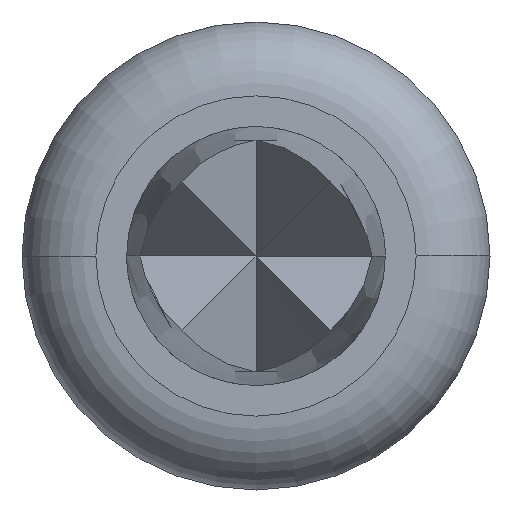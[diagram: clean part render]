
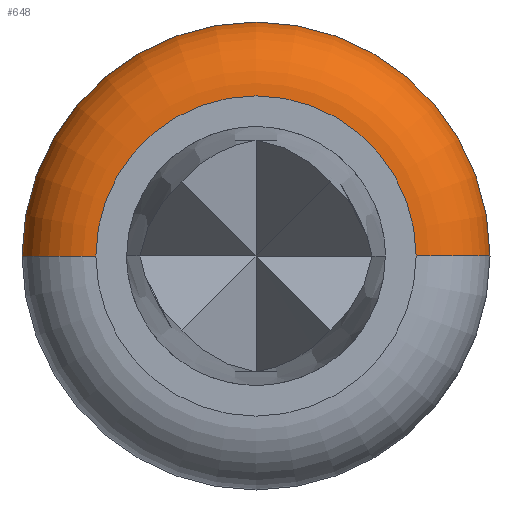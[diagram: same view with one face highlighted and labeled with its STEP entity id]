
A CAD part, front view. The second image highlights one B-rep face of the part: STEP entity #648.
In plain terms, the highlighted toroidal (fillet/blend) face has major radius 0.13 mm and minor radius 0.06 mm.
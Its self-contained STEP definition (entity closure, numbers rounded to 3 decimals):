
#165=CARTESIAN_POINT('',(0.,-4.94,0.));
#166=DIRECTION('',(0.,1.,0.));
#167=DIRECTION('',(-1.,0.,0.));
#168=AXIS2_PLACEMENT_3D('',#165,#166,#167);
#183=CARTESIAN_POINT('',(-0.13,-4.94,0.));
#184=DIRECTION('',(0.,0.,1.));
#185=DIRECTION('',(-1.,0.,0.));
#186=AXIS2_PLACEMENT_3D('',#183,#184,#185);
#188=CARTESIAN_POINT('',(0.13,-4.94,0.));
#189=DIRECTION('',(0.,0.,-1.));
#190=DIRECTION('',(1.,0.,0.));
#191=AXIS2_PLACEMENT_3D('',#188,#189,#190);
#218=CARTESIAN_POINT('',(0.,-5.,0.));
#219=DIRECTION('',(0.,1.,0.));
#220=DIRECTION('',(-1.,0.,0.));
#221=AXIS2_PLACEMENT_3D('',#218,#219,#220);
#393=CARTESIAN_POINT('',(0.19,-4.94,0.));
#394=CARTESIAN_POINT('',(-0.19,-4.94,0.));
#395=VERTEX_POINT('',#393);
#396=VERTEX_POINT('',#394);
#397=CARTESIAN_POINT('',(0.13,-5.,0.));
#398=CARTESIAN_POINT('',(-0.13,-5.,0.));
#399=VERTEX_POINT('',#397);
#400=VERTEX_POINT('',#398);
#634=CARTESIAN_POINT('',(0.,-4.94,0.));
#635=DIRECTION('',(0.,1.,0.));
#636=DIRECTION('',(-0.998,0.,-0.066));
#637=AXIS2_PLACEMENT_3D('',#634,#635,#636);
#638=TOROIDAL_SURFACE('',#637,0.13,0.06);
#639=ORIENTED_EDGE('',*,*,#624,.T.);
#641=ORIENTED_EDGE('',*,*,#640,.T.);
#643=ORIENTED_EDGE('',*,*,#642,.F.);
#645=ORIENTED_EDGE('',*,*,#644,.F.);
#646=EDGE_LOOP('',(#639,#641,#643,#645));
#647=FACE_OUTER_BOUND('',#646,.F.);
#169=CIRCLE('',#168,0.19);
#187=CIRCLE('',#186,0.06);
#192=CIRCLE('',#191,0.06);
#222=CIRCLE('',#221,0.13);
#624=EDGE_CURVE('',#396,#395,#169,.T.);
#640=EDGE_CURVE('',#395,#399,#192,.T.);
#642=EDGE_CURVE('',#400,#399,#222,.T.);
#644=EDGE_CURVE('',#396,#400,#187,.T.);
#648=ADVANCED_FACE('',(#647),#638,.T.);
